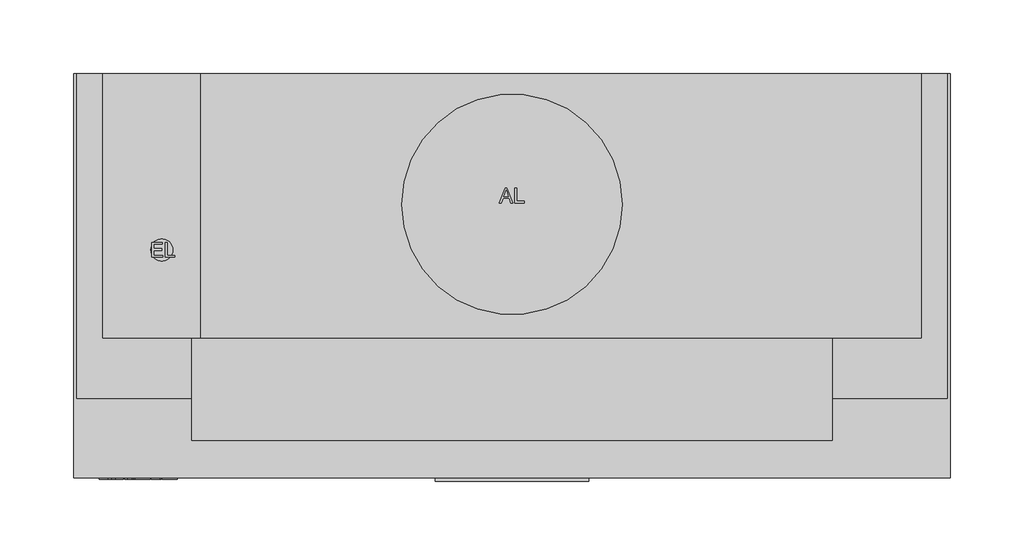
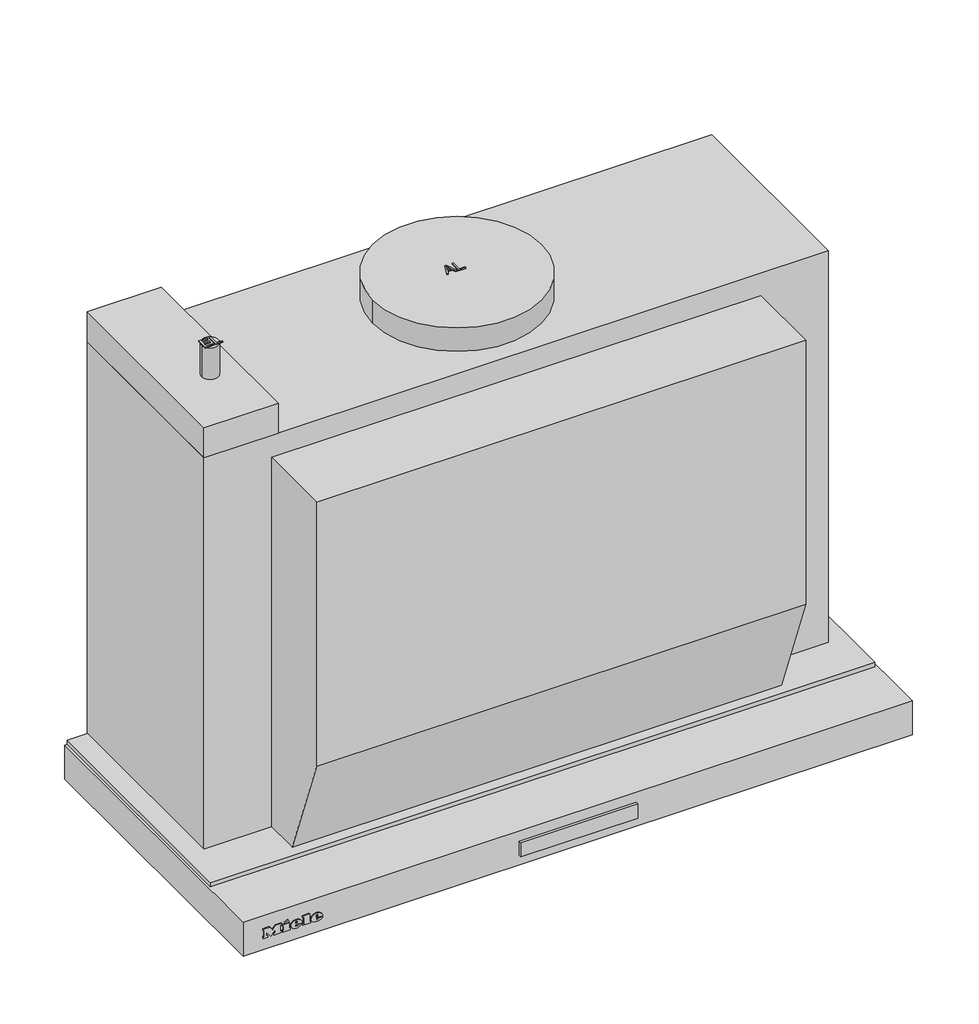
# Not in any storey: 1 proxy.
"""IFC4 building model written with IfcOpenShell, lengths in millimetres."""

from ifc_helpers import new_model, si_unit, origin, place, context, project, spatial, transform, mapped, element, save
from components import specialty_equipment_a0b4541a

model = new_model("IFC4")

# Units and contexts
model_context = context("Model", 3, world=origin())
ifc_project = project(units=[si_unit("LENGTHUNIT", "METRE", prefix="MILLI")], contexts=[model_context])

# Site, building
site = spatial("IfcSite", under=ifc_project)
building = spatial("IfcBuilding", under=site)

# Proxy
placement = place(None, origin())
specialty_equipment_shape = specialty_equipment_a0b4541a(model_context)
element("IfcBuildingElementProxy", 1, Name="11878490_USA_DAS2620_EDST : 28S2620S_USA_11878490_DAS2620_EDST", ObjectType="11878490_USA_DAS2620_EDST : 28S2620S_USA_11878490_DAS2620_EDST", at=placement, inside=building, context=model_context, shape_type="MappedRepresentation", body=[
    mapped(specialty_equipment_shape, transform((0.0, 0.0, 0.0), x_axis=(1.0, 0.0, 0.0), y_axis=(0.0, 1.0, 0.0), z_axis=(0.0, 0.0, 1.0))),
])

save(model, "model.ifc")
